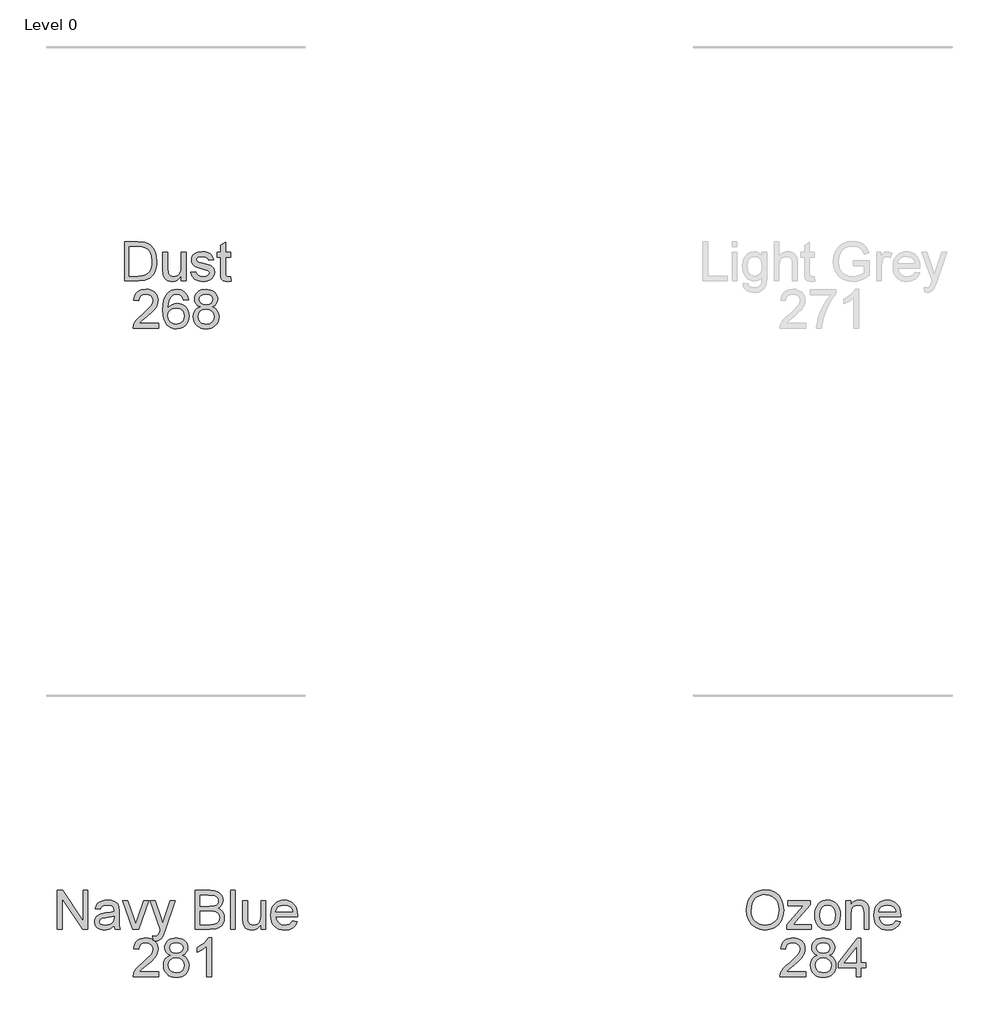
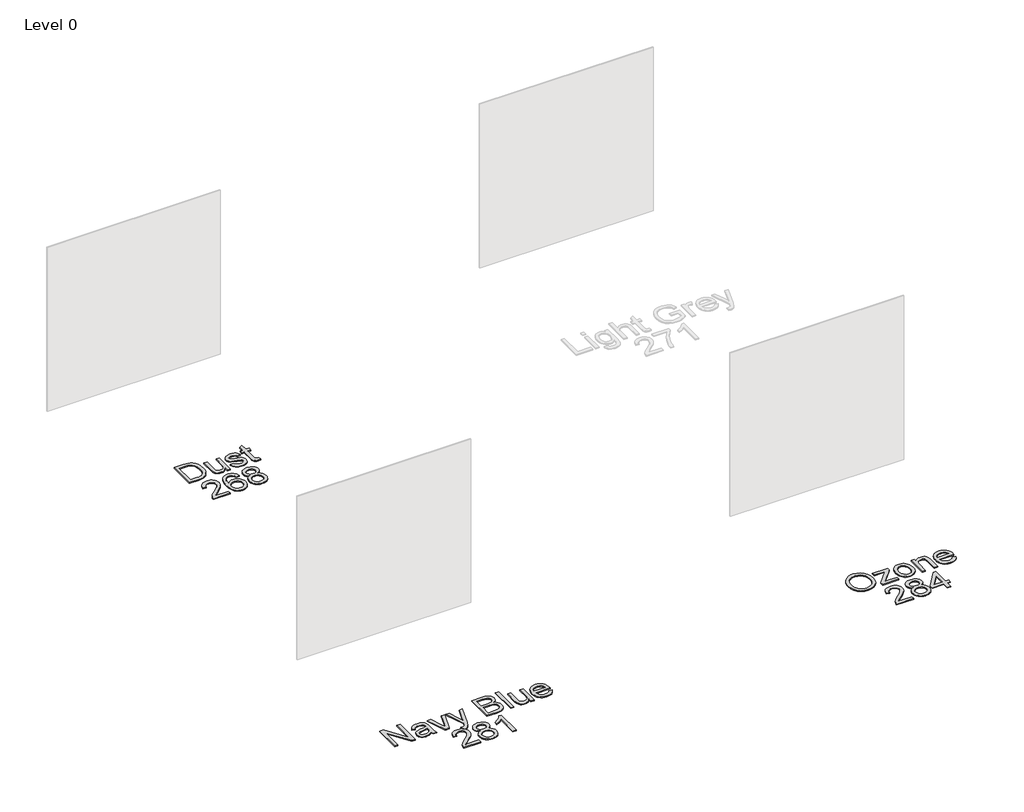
# One storey, part 8 of 15: 3 proxies.
"""IFC4 building model written with IfcOpenShell, lengths in millimetres."""

from ifc_helpers import new_model, si_unit, origin, origin_with_axes, place, context, project, spatial, polyline, outline, extrude, element, save

model = new_model("IFC4")

# Units and contexts
model_context = context("Model", 3, world=origin())
ifc_project = project(units=[si_unit("LENGTHUNIT", "METRE", prefix="MILLI")], contexts=[model_context])

# Site, building, storey
site = spatial("IfcSite", under=ifc_project)
building = spatial("IfcBuilding", under=site)
storey = spatial("IfcBuildingStorey", under=building, Name="Level 0", Elevation=0.0)

# Proxies
placement = place(None, origin())
element("IfcBuildingElementProxy", 1, Name="300mm Arial", ObjectType="300mm Arial", at=placement, inside=storey, context=model_context, shape_type="SweptSolid", body=[
    extrude(outline(polyline([(151.4407777, -32011.9454346), (151.4407777, -31710.5765041), (255.4042295, -31710.5765041), (309.1885772, -31714.9175116), (333.2112715, -31723.286827), (353.4815695, -31736.4753966), (374.3220845, -31759.4312331), (389.166123, -31787.9788759), (398.0504732, -31821.566502), (401.0119232, -31859.6422885), (399.0069664, -31891.988313), (392.9920957, -31920.4531824), (383.8318341, -31944.6874088), (372.390704, -31964.3415044), (359.2205286, -31979.8569275), (344.8731308, -31991.6751366), (328.4012144, -32000.4399252), (308.8574834, -32006.7950866), (260.4074247, -32011.9454346), (151.4407777, -32011.9454346)]), holes=[polyline([(189.111894, -31974.2743182), (255.7721115, -31974.2743182), (283.3448671, -31972.9131549), (304.2589585, -31968.8296647), (320.0410961, -31962.2629711), (332.2179901, -31953.4521973), (345.3053921, -31937.1458279), (355.1370384, -31916.0385984), (361.2898648, -31890.0385384), (363.3408069, -31859.0536774), (359.3216961, -31817.9980467), (347.2643637, -31787.6845703), (329.4496781, -31766.8624494), (308.1585077, -31754.2808851), (286.4902581, -31749.7559366), (254.742042, -31748.2476204), (189.111894, -31748.2476204), (189.111894, -31974.2743182)])]), origin_with_axes(), (0.0, 0.0, 1.0), 10.0),
    extrude(outline(polyline([(589.3675048, -32011.9454346), (589.3675048, -31973.9064362), (575.7374768, -31992.6086372), (559.8633688, -32005.9673521), (541.7451805, -32013.9825811), (521.3829121, -32016.6543241), (503.0347975, -32014.7781259), (485.9558759, -32009.1495314), (471.6268722, -32000.6882455), (461.5285114, -31990.3139732), (450.3081106, -31962.5756708), (448.1008186, -31927.5533049), (448.1008186, -31790.6276263), (485.7719349, -31790.6276263), (485.7719349, -31909.8213927), (488.0528033, -31948.228273), (493.5434421, -31961.0397635), (502.9520241, -31970.7794393), (515.65315, -31976.9322657), (531.0214203, -31978.9832078), (547.2726075, -31976.8862804), (562.4753309, -31970.5954983), (575.0109099, -31960.6902756), (583.2606636, -31947.7500264), (587.8407945, -31930.0273113), (589.3675048, -31905.7746907), (589.3675048, -31790.6276263), (627.0386211, -31790.6276263), (627.0386211, -32011.9454346), (589.3675048, -32011.9454346)])), origin_with_axes(), (0.0, 0.0, 1.0), 10.0),
    extrude(outline(polyline([(664.7097374, -31946.020981), (702.3808537, -31941.3120915), (708.3221479, -31957.4253229), (719.8184603, -31969.2711231), (736.9433671, -31976.5551866), (759.7704449, -31978.9832078), (782.3216112, -31976.7575217), (798.1773252, -31970.0804635), (807.5583161, -31960.405167), (810.6853131, -31949.1847662), (807.539922, -31939.5830461), (798.1037488, -31932.2621944), (759.3289865, -31921.5200401), (702.6015829, -31903.0891522), (688.244988, -31893.8277229), (677.8431246, -31881.5680555), (671.5247513, -31867.091899), (669.4186269, -31851.1810027), (671.1108841, -31836.5852845), (676.1876556, -31823.1116064), (684.189089, -31811.2933973), (694.6553318, -31801.6640861), (718.6044497, -31790.5172617), (751.0148534, -31785.9187367), (775.5341884, -31787.7673437), (796.85295, -31793.3131648), (813.996251, -31802.013574), (825.9892041, -31813.3259454), (833.9354552, -31828.0872104), (838.9386503, -31847.1343007), (801.267534, -31851.8431903), (796.5126592, -31839.988193), (787.1040772, -31831.0578575), (772.9498174, -31825.4568541), (753.9579094, -31823.589853), (732.3264481, -31825.3740807), (717.9054739, -31830.7267637), (709.7936759, -31838.4522856), (707.0897432, -31847.3550299), (711.5779036, -31858.3179134), (725.6309958, -31866.6320465), (758.0781878, -31874.651874), (813.3708516, -31892.3837861), (827.9757668, -31900.8634661), (839.0490149, -31912.4701431), (846.0295758, -31927.2406052), (848.3564294, -31945.2116406), (845.6249056, -31963.7896814), (837.4303341, -31981.2640762), (824.0854147, -31996.2644645), (805.9028471, -32007.420486), (783.940292, -32014.3458646), (759.2554101, -32016.6543241), (721.2715941, -32012.2029519), (693.5516858, -31998.8488355), (675.0472214, -31976.7391276), (664.7097374, -31946.020981)])), origin_with_axes(), (0.0, 0.0, 1.0), 10.0),
    extrude(outline(polyline([(970.7875574, -31980.5283122), (975.4964469, -32013.0490805), (947.3166861, -32016.6543241), (929.235286, -32015.0908256), (915.7524109, -32010.4003302), (906.2242672, -32003.171449), (900.0070615, -31993.9927932), (896.5857589, -31978.2290497), (895.4453248, -31951.2449053), (895.4453248, -31828.2987426), (867.1919875, -31828.2987426), (867.1919875, -31790.6276263), (895.4453248, -31790.6276263), (895.4453248, -31736.8432786), (933.1164411, -31714.6967824), (933.1164411, -31790.6276263), (970.7875574, -31790.6276263), (970.7875574, -31828.2987426), (933.1164411, -31828.2987426), (933.1164411, -31950.1412594), (935.1030038, -31969.5654287), (941.5409388, -31976.444822), (954.3800204, -31978.9832078), (970.7875574, -31980.5283122)])), origin_with_axes(), (0.0, 0.0, 1.0), 10.0),
    extrude(outline(polyline([(415.1385919, -32340.1987718), (415.1385919, -32377.8698881), (217.3652312, -32377.8698881), (221.4119332, -32351.8974192), (230.7009536, -32331.5995301), (244.2941933, -32311.9086464), (263.9574859, -32291.2980576), (291.4566651, -32268.2410535), (332.1076255, -32232.1334357), (356.4982018, -32205.4803851), (368.69349, -32183.8489238), (372.758586, -32162.8060737), (368.9234162, -32143.9429244), (357.4179068, -32128.2619544), (339.7319799, -32117.694544), (317.3555575, -32114.1720739), (293.8570951, -32117.6117706), (275.6009511, -32127.9308606), (263.8195302, -32144.3200034), (259.7452371, -32165.9698589), (222.0741208, -32161.2609693), (231.2067913, -32124.8222577), (239.7531499, -32110.2863204), (250.9528574, -32098.2059954), (264.5483964, -32088.7100414), (280.2822495, -32081.9272171), (318.1648979, -32076.5009576), (338.3547217, -32078.0092738), (356.3234579, -32082.5342224), (372.0711065, -32090.0758033), (385.5976676, -32100.6340165), (396.4616828, -32113.4271129), (404.2216936, -32127.6733432), (408.8777001, -32143.3727073), (410.4297023, -32160.5252053), (408.7558392, -32178.5422261), (403.73425, -32196.2465471), (394.8223087, -32214.2543707), (381.4773893, -32233.1818994), (360.2046129, -32255.7790509), (327.5091006, -32284.7957433), (284.1726016, -32321.0321198), (267.1764534, -32340.1987718), (415.1385919, -32340.1987718)])), origin_with_axes(), (0.0, 0.0, 1.0), 10.0),
    extrude(outline(polyline([(645.8741792, -32156.5520798), (608.2030629, -32161.2609693), (602.13301, -32142.5909581), (593.9292415, -32129.8438469), (576.8411228, -32118.0900172), (556.1845488, -32114.1720739), (538.6733658, -32116.4529423), (522.1922524, -32123.2955474), (508.0379927, -32137.7073246), (496.477301, -32157.5453612), (488.6690056, -32185.6055604), (485.7719349, -32224.6838253), (500.8826879, -32207.0530807), (518.9916791, -32194.6278663), (539.0872331, -32187.2610293), (560.1576744, -32184.805417), (578.2574685, -32186.4838786), (594.9593111, -32191.5192634), (610.2632021, -32199.9115714), (624.1691415, -32211.6608027), (635.7252347, -32226.0679813), (643.979587, -32242.4341316), (648.9321983, -32260.7592534), (650.5830688, -32281.043347), (647.4744659, -32308.0182943), (638.1486573, -32333.0250729), (623.3781952, -32354.2334699), (603.9356318, -32369.8132724), (580.7038838, -32379.3874013), (554.565868, -32382.5787776), (532.1089715, -32380.4634562), (511.8271772, -32374.1174917), (493.7204853, -32363.5408844), (477.7888956, -32348.7336341), (464.8003619, -32329.0703414), (455.5228379, -32303.9256071), (449.9563234, -32273.299431), (448.1008186, -32237.1918131), (450.1609578, -32196.7109981), (456.3413753, -32162.1622802), (466.6420712, -32133.5456595), (481.0630454, -32110.861136), (496.6934317, -32095.828558), (514.8162184, -32085.0910022), (535.4314058, -32078.6484688), (558.5389936, -32076.5009576), (591.5931908, -32081.8168525), (618.0623004, -32097.764537), (636.6035529, -32123.0932123), (645.8741792, -32156.5520798)]), holes=[polyline([(485.7719349, -32280.4547358), (487.9516357, -32297.1473813), (494.4907382, -32313.0858687), (504.6442813, -32326.7894731), (517.6673039, -32336.7774692), (533.3850622, -32342.8751133), (551.6228121, -32344.9076613), (576.4824379, -32340.6954125), (596.0261689, -32328.0586659), (608.6905066, -32308.1930382), (612.9119525, -32282.2941457), (608.7456889, -32257.4345199), (596.2468981, -32238.4794001), (576.3720733, -32226.47725), (550.0777077, -32222.4765333), (525.2548701, -32226.47725), (504.4971285, -32238.4794001), (490.4532333, -32256.9746674), (485.7719349, -32280.4547358)])]), origin_with_axes(), (0.0, 0.0, 1.0), 10.0),
    extrude(outline(polyline([(738.4332892, -32211.8815319), (718.2641588, -32201.948718), (704.1098991, -32188.484237), (695.7497807, -32171.7640003), (692.9630746, -32152.0639194), (694.4805878, -32136.7002476), (699.0331275, -32122.6149657), (706.6206937, -32109.8080738), (717.2432863, -32098.2795718), (730.3904691, -32088.7514281), (745.5518058, -32081.9456112), (781.916941, -32076.5009576), (818.5028055, -32082.0743699), (833.8296891, -32089.0411351), (847.179207, -32098.7946065), (857.9949376, -32110.5484363), (865.7204595, -32123.5162766), (870.3557727, -32137.6981275), (871.9008771, -32153.093989), (869.1509591, -32172.1594734), (860.9012054, -32188.5946016), (847.0596453, -32201.9763091), (827.5343084, -32211.8815319), (850.7200712, -32223.8284997), (867.5966577, -32241.4224561), (877.8881565, -32263.8172725), (881.3186561, -32290.1668204), (879.6172019, -32308.9563933), (874.5128392, -32326.1824678), (866.0055681, -32341.8450437), (854.0953885, -32355.9441212), (839.4076998, -32367.5967834), (822.5679015, -32375.9201135), (803.5759935, -32380.9141116), (782.4319758, -32382.5787776), (761.2879582, -32380.9072138), (742.2960502, -32375.8925224), (725.4562518, -32367.5347033), (710.7685632, -32355.8337566), (698.8583836, -32341.6358108), (690.3511124, -32325.7869946), (685.2467498, -32308.287308), (683.5452955, -32289.1367509), (687.1137509, -32261.7663304), (697.8191169, -32239.2519523), (715.1095707, -32222.3661687), (738.4332892, -32211.8815319)]), holes=[polyline([(730.6341909, -32153.1675654), (733.97272, -32169.6118906), (743.9883073, -32182.7452778), (760.3866473, -32191.3537165), (782.8734342, -32194.2231961), (804.8359893, -32191.3721106), (820.9860089, -32182.8188542), (830.9188228, -32170.1269254), (834.2297608, -32154.8598226), (830.8084582, -32139.0133057), (820.5445505, -32125.9075096), (804.1738018, -32117.1059329), (782.4319758, -32114.1720739), (760.5521942, -32117.0415535), (744.2090365, -32125.6499922), (734.0279023, -32138.2683446), (730.6341909, -32153.1675654)]), polyline([(721.2164118, -32287.8123757), (727.507194, -32316.1760775), (736.2168002, -32328.3437745), (749.7640547, -32337.4028686), (765.9876507, -32343.0314631), (782.7262814, -32344.9076613), (808.3676565, -32340.9621269), (827.6078848, -32329.1255237), (839.6376261, -32311.2004735), (843.6475398, -32288.9895981), (839.5088674, -32266.4016435), (827.0928501, -32248.0811202), (807.4111633, -32235.9410143), (781.4754826, -32231.8943124), (756.1927925, -32235.885832), (737.1457022, -32247.860391), (725.1987344, -32265.8314265), (721.2164118, -32287.8123757)])]), origin_with_axes(), (0.0, 0.0, 1.0), 10.0),
])
element("IfcBuildingElementProxy", 2, Name="300mm Arial", ObjectType="300mm Arial", at=placement, inside=storey, context=model_context, shape_type="SweptSolid", body=[
    extrude(outline(polyline([(-366.5370715, -37021.0303751), (-366.5370715, -36719.6614447), (-326.2172048, -36719.6614447), (-168.7637109, -36958.4168595), (-168.7637109, -36719.6614447), (-131.0925946, -36719.6614447), (-131.0925946, -37021.0303751), (-171.4124613, -37021.0303751), (-328.8659552, -36782.2013839), (-328.8659552, -37021.0303751), (-366.5370715, -37021.0303751)])), origin_with_axes(), (0.0, 0.0, 1.0), 10.0),
    extrude(outline(polyline([(71.3896556, -36992.7770379), (53.3910289, -37008.2096876), (34.8589734, -37018.3080484), (15.3704247, -37023.8814606), (-5.4976814, -37025.7392647), (-36.9791832, -37021.2694984), (-60.2017341, -37007.8601997), (-74.5215408, -36987.4979313), (-79.2948097, -36962.1692559), (-77.4921879, -36946.5526652), (-72.0843226, -36932.3708143), (-63.7425983, -36920.2307084), (-53.1383998, -36910.739353), (-26.7612608, -36898.3785179), (5.833084, -36892.7131352), (44.3503289, -36886.7534469), (71.1689264, -36879.763689), (71.3896556, -36871.3759795), (68.7960875, -36854.5637723), (61.0153833, -36843.5641006), (43.6145649, -36835.3971204), (19.3711414, -36832.6747936), (-3.0696603, -36834.4866124), (-18.7414333, -36839.9220689), (-29.4284052, -36849.9744444), (-36.9148038, -36865.6370204), (-74.5859201, -36860.9281308), (-68.0468177, -36840.3267391), (-58.2887477, -36824.1399313), (-44.4012024, -36811.7607022), (-25.4736738, -36802.5820464), (-2.3246992, -36796.8982696), (24.2271838, -36795.0036773), (49.6938149, -36796.6775404), (69.8813394, -36801.6991296), (85.1024569, -36809.2499075), (95.6698672, -36818.5113368), (102.6780192, -36829.9616639), (107.2213619, -36844.0791354), (109.0607719, -36877.0413622), (109.0607719, -36923.9095284), (110.9737582, -36989.3557353), (118.4785509, -37021.0303751), (80.8074346, -37021.0303751), (71.3896556, -36992.7770379)]), holes=[polyline([(71.3896556, -36917.4348053), (10.61555, -36928.9862999), (-21.7948538, -36935.093141), (-36.4733454, -36945.0259549), (-41.6236934, -36959.5205055), (-38.8185931, -36970.7225123), (-30.4032925, -36979.9011681), (-16.5617324, -36986.0264033), (2.5221461, -36988.0681484), (22.7556558, -36985.8148711), (40.6347208, -36979.0550395), (55.1292714, -36969.0946345), (65.209238, -36957.2396372), (69.6790043, -36945.0259549), (71.1689264, -36928.1033831), (71.3896556, -36917.4348053)])]), origin_with_axes(), (0.0, 0.0, 1.0), 10.0),
    extrude(outline(polyline([(215.1579393, -37021.0303751), (137.3141091, -36799.7125668), (177.1925174, -36799.7125668), (224.3549892, -36932.2972379), (238.5552342, -36976.8845357), (252.4611736, -36934.7988355), (299.917951, -36799.7125668), (339.7963592, -36799.7125668), (262.9090222, -37021.0303751), (215.1579393, -37021.0303751)])), origin_with_axes(), (0.0, 0.0, 1.0), 10.0),
    extrude(outline(polyline([(372.758586, -37105.7903868), (368.0496965, -37069.5172221), (387.1795602, -37072.82816), (405.0586252, -37068.6710935), (416.0215086, -37057.0828106), (426.3222045, -37029.3445082), (429.2652605, -37020.2210347), (349.2141383, -36799.7125668), (388.9453938, -36799.7125668), (431.398976, -36922.5851532), (446.1878322, -36971.7341878), (460.9766885, -36928.3241123), (504.6074931, -36799.7125668), (544.044443, -36799.7125668), (467.0099532, -37026.3278759), (446.9971726, -37075.4769104), (436.7516591, -37091.1670775), (425.1449821, -37102.0379905), (411.662107, -37108.3839549), (395.7879989, -37110.4992763), (372.758586, -37105.7903868)])), origin_with_axes(), (0.0, 0.0, 1.0), 10.0),
    extrude(outline(polyline([(697.6719641, -37021.0303751), (697.6719641, -36719.6614447), (812.6718758, -36719.6614447), (844.3005304, -36721.8779337), (868.9946093, -36728.5274008), (887.922138, -36739.7753928), (902.2511417, -36755.7874566), (911.2734476, -36774.6230148), (914.2808829, -36794.3414897), (911.7516942, -36812.4872691), (904.164128, -36829.5477966), (891.4630022, -36844.4746086), (873.5931342, -36856.2192413), (894.939487, -36867.3660657), (910.7124276, -36884.3254257), (920.4521034, -36905.9752811), (923.698662, -36931.1935919), (921.482173, -36952.2088509), (914.8327059, -36971.6973996), (904.9090891, -36988.2704835), (892.8701508, -37000.539348), (878.1272798, -37009.4236982), (860.091865, -37015.843239), (811.7889591, -37021.0303751), (697.6719641, -37021.0303751)]), holes=[polyline([(735.3430805, -36842.0925727), (804.1370136, -36842.0925727), (844.3097274, -36838.8552111), (858.3720167, -36833.2726018), (868.4795745, -36824.9124835), (874.5772186, -36813.9036148), (876.6097666, -36800.3747544), (874.7151743, -36787.2413672), (869.0313975, -36775.8002371), (859.8159535, -36766.8699017), (847.3263598, -36761.2688983), (798.9130892, -36757.332561), (735.3430805, -36757.332561), (735.3430805, -36842.0925727)]), polyline([(735.3430805, -36983.3592588), (812.5982994, -36983.3592588), (840.5573311, -36981.8877308), (864.2121434, -36973.6839623), (879.8839164, -36956.9453316), (884.4916383, -36945.1179254), (886.0275457, -36931.5614739), (884.2249239, -36915.8161245), (878.8170586, -36902.2780671), (869.3716883, -36891.6922627), (855.4565519, -36884.8036723), (835.747274, -36881.0236848), (808.9194795, -36879.763689), (735.3430805, -36879.763689), (735.3430805, -36983.3592588)])]), origin_with_axes(), (0.0, 0.0, 1.0), 10.0),
    extrude(outline(polyline([(970.7875574, -37021.0303751), (970.7875574, -36719.6614447), (1008.4586737, -36719.6614447), (1008.4586737, -37021.0303751), (970.7875574, -37021.0303751)])), origin_with_axes(), (0.0, 0.0, 1.0), 10.0),
    extrude(outline(polyline([(1206.2320343, -37021.0303751), (1206.2320343, -36982.9913768), (1192.6020064, -37001.6935777), (1176.7278983, -37015.0522927), (1158.60971, -37023.0675217), (1138.2474416, -37025.7392647), (1119.8993271, -37023.8630665), (1102.8204054, -37018.234472), (1088.4914017, -37009.7731861), (1078.393041, -36999.3989138), (1067.1726401, -36971.6606114), (1064.9653481, -36936.6382454), (1064.9653481, -36799.7125668), (1102.6364644, -36799.7125668), (1102.6364644, -36918.9063333), (1104.9173328, -36957.3132136), (1110.4079716, -36970.124704), (1119.8165536, -36979.8643799), (1132.5176795, -36986.0172062), (1147.8859498, -36988.0681484), (1164.137137, -36985.971221), (1179.3398604, -36979.6804389), (1191.8754394, -36969.7752161), (1200.1251932, -36956.834967), (1204.705324, -36939.1122518), (1206.2320343, -36914.8596313), (1206.2320343, -36799.7125668), (1243.9031506, -36799.7125668), (1243.9031506, -37021.0303751), (1206.2320343, -37021.0303751)])), origin_with_axes(), (0.0, 0.0, 1.0), 10.0),
    extrude(outline(polyline([(1450.6528319, -36955.1059216), (1487.5881842, -36959.8148111), (1474.280053, -36987.6450841), (1453.0440648, -37008.4488109), (1424.3584663, -37021.4166512), (1388.7015039, -37025.7392647), (1365.3272016, -37023.8745628), (1344.5004822, -37018.2804572), (1326.2213455, -37008.9569479), (1310.4897917, -36995.9040349), (1297.8392496, -36979.4850016), (1288.8031481, -36960.0631315), (1283.3814872, -36937.6384246), (1281.5742669, -36912.2108809), (1283.3998813, -36885.9211139), (1288.8767245, -36862.7491467), (1298.0047965, -36842.6949794), (1310.7840973, -36825.7586121), (1326.4742644, -36812.3033281), (1344.3349353, -36802.692411), (1364.3661099, -36796.9258607), (1386.5677883, -36795.0036773), (1408.0543961, -36796.9212622), (1427.4854632, -36802.6740169), (1444.8609897, -36812.2619414), (1460.1809756, -36825.6850357), (1472.6866641, -36842.5846148), (1481.6192988, -36862.6019939), (1486.9788796, -36885.7371729), (1488.7654066, -36911.9901518), (1488.5446774, -36922.1436948), (1319.2453832, -36922.1436948), (1325.7660916, -36950.3418497), (1340.9136327, -36971.0720002), (1362.7750203, -36983.8191113), (1389.4372679, -36988.0681484), (1409.4868366, -36986.0999797), (1426.3726202, -36980.1954737), (1440.0946186, -36969.9867483), (1450.6528319, -36955.1059216)]), holes=[polyline([(1319.2453832, -36884.4725785), (1451.0942903, -36884.4725785), (1445.9991246, -36864.5701626), (1436.0111285, -36850.3331294), (1414.0485734, -36837.0893775), (1386.4206355, -36832.6747936), (1361.0275808, -36836.1972637), (1340.0307159, -36846.764674), (1325.4349978, -36863.2365903), (1319.2453832, -36884.4725785)])]), origin_with_axes(), (0.0, 0.0, 1.0), 10.0),
    extrude(outline(polyline([(415.1385919, -37349.2837124), (415.1385919, -37386.9548287), (217.3652312, -37386.9548287), (221.4119332, -37360.9823598), (230.7009536, -37340.6844707), (244.2941933, -37320.9935869), (263.9574859, -37300.3829981), (291.4566651, -37277.3259941), (332.1076255, -37241.2183763), (356.4982018, -37214.5653257), (368.69349, -37192.9338644), (372.758586, -37171.8910143), (368.9234162, -37153.027865), (357.4179068, -37137.3468949), (339.7319799, -37126.7794846), (317.3555575, -37123.2570145), (293.8570951, -37126.6967112), (275.6009511, -37137.0158011), (263.8195302, -37153.404944), (259.7452371, -37175.0547994), (222.0741208, -37170.3459099), (231.2067913, -37133.9071983), (239.7531499, -37119.3712609), (250.9528574, -37107.2909359), (264.5483964, -37097.7949819), (280.2822495, -37091.0121576), (318.1648979, -37085.5858982), (338.3547217, -37087.0942144), (356.3234579, -37091.6191629), (372.0711065, -37099.1607438), (385.5976676, -37109.7189571), (396.4616828, -37122.5120535), (404.2216936, -37136.7582837), (408.8777001, -37152.4576479), (410.4297023, -37169.6101459), (408.7558392, -37187.6271666), (403.73425, -37205.3314876), (394.8223087, -37223.3393113), (381.4773893, -37242.26684), (360.2046129, -37264.8639915), (327.5091006, -37293.8806839), (284.1726016, -37330.1170604), (267.1764534, -37349.2837124), (415.1385919, -37349.2837124)])), origin_with_axes(), (0.0, 0.0, 1.0), 10.0),
    extrude(outline(polyline([(507.6977018, -37220.9664724), (487.5285715, -37211.0336586), (473.3743117, -37197.5691775), (465.0141933, -37180.8489409), (462.2274872, -37161.14886), (463.7450005, -37145.7851882), (468.2975402, -37131.6999063), (475.8851063, -37118.8930143), (486.5076989, -37107.3645123), (499.6548817, -37097.8363686), (514.8162184, -37091.0305517), (551.1813537, -37085.5858982), (587.7672181, -37091.1593104), (603.0941017, -37098.1260757), (616.4436196, -37107.8795471), (627.2593503, -37119.6333769), (634.9848722, -37132.6012172), (639.6201853, -37146.7830681), (641.1652897, -37162.1789296), (638.4153718, -37181.244414), (630.165618, -37197.6795421), (616.324058, -37211.0612497), (596.7987211, -37220.9664724), (619.9844838, -37232.9134402), (636.8610703, -37250.5073966), (647.1525692, -37272.9022131), (650.5830688, -37299.251761), (648.8816145, -37318.0413339), (643.7772519, -37335.2674083), (635.2699807, -37350.9299843), (623.3598011, -37365.0290617), (608.6721125, -37376.6817239), (591.8323141, -37385.0050541), (572.8404061, -37389.9990522), (551.6963885, -37391.6637182), (530.5523708, -37389.9921544), (511.5604628, -37384.9774629), (494.7206645, -37376.6196439), (480.0329758, -37364.9186971), (468.1227962, -37350.7207514), (459.6155251, -37334.8719352), (454.5111624, -37317.3722485), (452.8097082, -37298.2216914), (456.3781635, -37270.851271), (467.0835296, -37248.3368929), (484.3739833, -37231.4511093), (507.6977018, -37220.9664724)]), holes=[polyline([(499.8986035, -37162.252506), (503.2371326, -37178.6968312), (513.25272, -37191.8302184), (529.6510599, -37200.4386571), (552.1378469, -37203.3081367), (574.100402, -37200.4570512), (590.2504216, -37191.9037948), (600.1832354, -37179.211866), (603.4941734, -37163.9447632), (600.0728708, -37148.0982462), (589.8089632, -37134.9924502), (573.4382144, -37126.1908734), (551.6963885, -37123.2570145), (529.8166068, -37126.1264941), (513.4734492, -37134.7349328), (503.2923149, -37147.3532852), (499.8986035, -37162.252506)]), polyline([(490.4808245, -37296.8973162), (496.7716066, -37325.2610181), (505.4812128, -37337.4287151), (519.0284673, -37346.4878092), (535.2520633, -37352.1164037), (551.9906941, -37353.9926019), (577.6320691, -37350.0470675), (596.8722975, -37338.2104643), (608.9020387, -37320.2854141), (612.9119525, -37298.0745386), (608.77328, -37275.4865841), (596.3572627, -37257.1660608), (576.6755759, -37245.0259549), (550.7398953, -37240.979253), (525.4572052, -37244.9707726), (506.4101149, -37256.9453316), (494.4631471, -37274.916367), (490.4808245, -37296.8973162)])]), origin_with_axes(), (0.0, 0.0, 1.0), 10.0),
    extrude(outline(polyline([(824.8119817, -37386.9548287), (787.1408654, -37386.9548287), (787.1408654, -37152.0989629), (751.4563118, -37177.5196088), (711.7986328, -37196.539108), (711.7986328, -37160.9281308), (741.3855422, -37144.8332935), (767.0177202, -37125.6850357), (787.2236388, -37105.3227672), (800.53177, -37085.5858982), (824.8119817, -37085.5858982), (824.8119817, -37386.9548287)])), origin_with_axes(), (0.0, 0.0, 1.0), 10.0),
])
element("IfcBuildingElementProxy", 3, Name="300mm Arial", ObjectType="300mm Arial", at=placement, inside=storey, context=model_context, shape_type="SweptSolid", body=[
    extrude(outline(polyline([(4958.3763066, -36874.3190354), (4960.8871013, -36838.9701742), (4968.4194851, -36807.677212), (4980.9734582, -36780.4401488), (4998.5490205, -36757.2589846), (5020.0931099, -36738.7499217), (5044.552664, -36725.5291625), (5071.927683, -36717.596707), (5102.2181668, -36714.9525551), (5141.7470871, -36719.9189621), (5177.1925174, -36734.8181829), (5206.623077, -36758.6017539), (5228.1073855, -36790.2212113), (5241.2407727, -36828.149845), (5245.6185685, -36870.8609447), (5241.0108465, -36914.1422614), (5227.1876805, -36952.604324), (5204.9124257, -36984.2789638), (5174.9484372, -37007.1980121), (5139.8065096, -37021.1039515), (5101.9974376, -37025.7392647), (5061.8615119, -37020.6165079), (5026.2137466, -37005.2482375), (4996.8567633, -36981.0232081), (4975.593184, -36949.3301743), (4962.680526, -36912.8638715), (4958.3763066, -36874.3190354)]), holes=[polyline([(4996.0474229, -36874.6869174), (4997.9305189, -36899.6615064), (5003.5798068, -36921.8309951), (5012.9952866, -36941.1953836), (5026.1769584, -36957.754672), (5042.2005185, -36971.0168179), (5060.1416636, -36980.4897793), (5080.0003935, -36986.1735561), (5101.7767084, -36988.0681484), (5123.9255037, -36986.155162), (5144.0187585, -36980.4162029), (5162.0564725, -36970.851271), (5178.038646, -36957.4603664), (5191.1237487, -36940.5515902), (5200.4702506, -36920.4330435), (5206.0781518, -36897.1047265), (5207.9474522, -36870.5666391), (5204.7468788, -36837.2181362), (5195.1451587, -36808.3945819), (5179.3906123, -36784.8225431), (5157.7315598, -36767.2285866), (5131.6027411, -36756.2749002), (5102.438896, -36752.6236714), (5081.4190385, -36754.3826072), (5061.9166942, -36759.6594146), (5043.9318631, -36768.4540935), (5027.4645453, -36780.7666441), (5013.7195543, -36797.1902759), (5003.9017035, -36818.3181987), (4998.0109931, -36844.1504126), (4996.0474229, -36874.6869174)])]), origin_with_axes(), (0.0, 0.0, 1.0), 10.0),
    extrude(outline(polyline([(5269.1630162, -37021.0303751), (5269.1630162, -36985.5665508), (5399.1725133, -36837.3836831), (5360.6920566, -36837.3836831), (5278.5807952, -36837.3836831), (5278.5807952, -36799.7125668), (5452.8097082, -36799.7125668), (5452.8097082, -36831.7183004), (5337.5154909, -36963.1993255), (5319.8571551, -36983.3592588), (5363.4143833, -36983.3592588), (5457.5185977, -36983.3592588), (5457.5185977, -37021.0303751), (5269.1630162, -37021.0303751)])), origin_with_axes(), (0.0, 0.0, 1.0), 10.0),
    extrude(outline(polyline([(5485.7719349, -36910.371471), (5487.8090815, -36881.708865), (5493.9205211, -36857.0101876), (5504.1062539, -36836.2754386), (5518.3662797, -36819.5046182), (5532.7228746, -36808.7854565), (5548.5693915, -36801.1289125), (5565.9058305, -36796.5349861), (5584.7321916, -36795.0036773), (5605.5152251, -36796.8683791), (5624.3070973, -36802.4624847), (5641.1078081, -36811.7859941), (5655.9173577, -36824.8389071), (5668.0045805, -36841.1797655), (5676.6383111, -36860.3671108), (5681.8185494, -36882.400943), (5683.5452955, -36907.2812622), (5680.491875, -36945.3386546), (5671.3316133, -36974.3093617), (5656.3312249, -36996.0052024), (5635.7574244, -37012.2379954), (5611.3208628, -37022.3639474), (5584.7321916, -37025.7392647), (5563.6456555, -37023.8814606), (5544.6790394, -37018.3080484), (5527.8323433, -37009.019028), (5513.1055672, -36996.0143994), (5501.1471031, -36979.514892), (5492.605343, -36959.7412347), (5487.4802869, -36936.6934277), (5485.7719349, -36910.371471)]), holes=[polyline([(5523.4430512, -36910.2978946), (5527.8024529, -36944.3913585), (5540.8806578, -36968.6807672), (5560.5623445, -36983.2213031), (5584.7321916, -36988.0681484), (5608.7916741, -36983.1937119), (5628.4365727, -36968.5704026), (5641.5147776, -36943.9590971), (5645.8741792, -36909.1206722), (5641.4871864, -36876.0204897), (5628.3262081, -36852.0621747), (5608.6537184, -36837.5216389), (5584.7321916, -36832.6747936), (5560.5623445, -36837.5032448), (5540.8806578, -36851.9885983), (5527.8024529, -36876.2228248), (5523.4430512, -36910.2978946)])]), origin_with_axes(), (0.0, 0.0, 1.0), 10.0),
    extrude(outline(polyline([(5725.9253014, -37021.0303751), (5725.9253014, -36799.7125668), (5763.5964177, -36799.7125668), (5763.5964177, -36830.6146544), (5776.6838197, -36815.0348519), (5792.4015779, -36803.9064216), (5810.7496924, -36797.2293634), (5831.7281632, -36795.0036773), (5850.2970069, -36796.797102), (5867.3023521, -36802.1773762), (5881.484203, -36810.4731152), (5891.5825638, -36821.0129343), (5902.8765411, -36848.7144486), (5904.8631038, -36885.1347661), (5904.8631038, -37021.0303751), (5867.1919875, -37021.0303751), (5867.1919875, -36890.2115376), (5862.85098, -36856.8814289), (5856.8453064, -36846.9578121), (5847.5103008, -36839.2598813), (5835.5449389, -36834.3210655), (5821.6481965, -36832.6747936), (5799.5844739, -36836.3720076), (5780.7765069, -36847.4636498), (5773.2602178, -36856.5181454), (5767.89144, -36868.892776), (5763.5964177, -36903.6024423), (5763.5964177, -37021.0303751), (5725.9253014, -37021.0303751)])), origin_with_axes(), (0.0, 0.0, 1.0), 10.0),
    extrude(outline(polyline([(6111.6127851, -36955.1059216), (6148.5481374, -36959.8148111), (6135.2400063, -36987.6450841), (6114.0040181, -37008.4488109), (6085.3184195, -37021.4166512), (6049.6614571, -37025.7392647), (6026.2871549, -37023.8745628), (6005.4604354, -37018.2804572), (5987.1812988, -37008.9569479), (5971.449745, -36995.9040349), (5958.7992028, -36979.4850016), (5949.7631013, -36960.0631315), (5944.3414404, -36937.6384246), (5942.5342201, -36912.2108809), (5944.3598345, -36885.9211139), (5949.8366777, -36862.7491467), (5958.9647497, -36842.6949794), (5971.7440506, -36825.7586121), (5987.4342176, -36812.3033281), (6005.2948885, -36802.692411), (6025.3260632, -36796.9258607), (6047.5277416, -36795.0036773), (6069.0143493, -36796.9212622), (6088.4454165, -36802.6740169), (6105.820943, -36812.2619414), (6121.1409288, -36825.6850357), (6133.6466174, -36842.5846148), (6142.5792521, -36862.6019939), (6147.9388329, -36885.7371729), (6149.7253598, -36911.9901518), (6149.5046306, -36922.1436948), (5980.2053364, -36922.1436948), (5986.7260448, -36950.3418497), (6001.873586, -36971.0720002), (6023.7349735, -36983.8191113), (6050.3972211, -36988.0681484), (6070.4467899, -36986.0999797), (6087.3325734, -36980.1954737), (6101.0545719, -36969.9867483), (6111.6127851, -36955.1059216)]), holes=[polyline([(5980.2053364, -36884.4725785), (6112.0542435, -36884.4725785), (6106.9590779, -36864.5701626), (6096.9710817, -36850.3331294), (6075.0085266, -36837.0893775), (6047.3805888, -36832.6747936), (6021.987534, -36836.1972637), (6000.9906692, -36846.764674), (5986.394951, -36863.2365903), (5980.2053364, -36884.4725785)])]), origin_with_axes(), (0.0, 0.0, 1.0), 10.0),
    extrude(outline(polyline([(5415.1385919, -37349.2837124), (5415.1385919, -37386.9548287), (5217.3652312, -37386.9548287), (5221.4119332, -37360.9823598), (5230.7009536, -37340.6844707), (5244.2941933, -37320.9935869), (5263.9574859, -37300.3829981), (5291.4566651, -37277.3259941), (5332.1076255, -37241.2183763), (5356.4982018, -37214.5653257), (5368.69349, -37192.9338644), (5372.758586, -37171.8910143), (5368.9234162, -37153.027865), (5357.4179068, -37137.3468949), (5339.7319799, -37126.7794846), (5317.3555575, -37123.2570145), (5293.8570951, -37126.6967112), (5275.6009511, -37137.0158011), (5263.8195302, -37153.404944), (5259.7452371, -37175.0547994), (5222.0741208, -37170.3459099), (5231.2067913, -37133.9071983), (5239.7531499, -37119.3712609), (5250.9528574, -37107.2909359), (5264.5483964, -37097.7949819), (5280.2822495, -37091.0121576), (5318.1648979, -37085.5858982), (5338.3547217, -37087.0942144), (5356.3234579, -37091.6191629), (5372.0711065, -37099.1607438), (5385.5976676, -37109.7189571), (5396.4616828, -37122.5120535), (5404.2216936, -37136.7582837), (5408.8777001, -37152.4576479), (5410.4297023, -37169.6101459), (5408.7558392, -37187.6271666), (5403.73425, -37205.3314876), (5394.8223087, -37223.3393113), (5381.4773893, -37242.26684), (5360.2046129, -37264.8639915), (5327.5091006, -37293.8806839), (5284.1726016, -37330.1170604), (5267.1764534, -37349.2837124), (5415.1385919, -37349.2837124)])), origin_with_axes(), (0.0, 0.0, 1.0), 10.0),
    extrude(outline(polyline([(5507.6977018, -37220.9664724), (5487.5285715, -37211.0336586), (5473.3743117, -37197.5691775), (5465.0141933, -37180.8489409), (5462.2274872, -37161.14886), (5463.7450005, -37145.7851882), (5468.2975402, -37131.6999063), (5475.8851063, -37118.8930143), (5486.5076989, -37107.3645123), (5499.6548817, -37097.8363686), (5514.8162184, -37091.0305517), (5551.1813537, -37085.5858982), (5587.7672181, -37091.1593104), (5603.0941017, -37098.1260757), (5616.4436196, -37107.8795471), (5627.2593503, -37119.6333769), (5634.9848722, -37132.6012172), (5639.6201853, -37146.7830681), (5641.1652897, -37162.1789296), (5638.4153718, -37181.244414), (5630.165618, -37197.6795421), (5616.324058, -37211.0612497), (5596.7987211, -37220.9664724), (5619.9844838, -37232.9134402), (5636.8610703, -37250.5073966), (5647.1525692, -37272.9022131), (5650.5830688, -37299.251761), (5648.8816145, -37318.0413339), (5643.7772519, -37335.2674083), (5635.2699807, -37350.9299843), (5623.3598011, -37365.0290617), (5608.6721125, -37376.6817239), (5591.8323141, -37385.0050541), (5572.8404061, -37389.9990522), (5551.6963885, -37391.6637182), (5530.5523708, -37389.9921544), (5511.5604628, -37384.9774629), (5494.7206645, -37376.6196439), (5480.0329758, -37364.9186971), (5468.1227962, -37350.7207514), (5459.6155251, -37334.8719352), (5454.5111624, -37317.3722485), (5452.8097082, -37298.2216914), (5456.3781635, -37270.851271), (5467.0835296, -37248.3368929), (5484.3739833, -37231.4511093), (5507.6977018, -37220.9664724)]), holes=[polyline([(5490.4808245, -37296.8973162), (5496.7716066, -37325.2610181), (5505.4812128, -37337.4287151), (5519.0284673, -37346.4878092), (5535.2520633, -37352.1164037), (5551.9906941, -37353.9926019), (5577.6320691, -37350.0470675), (5596.8722975, -37338.2104643), (5608.9020387, -37320.2854141), (5612.9119525, -37298.0745386), (5608.77328, -37275.4865841), (5596.3572627, -37257.1660608), (5576.6755759, -37245.0259549), (5550.7398953, -37240.979253), (5525.4572052, -37244.9707726), (5506.4101149, -37256.9453316), (5494.4631471, -37274.916367), (5490.4808245, -37296.8973162)]), polyline([(5499.8986035, -37162.252506), (5503.2371326, -37178.6968312), (5513.25272, -37191.8302184), (5529.6510599, -37200.4386571), (5552.1378469, -37203.3081367), (5574.100402, -37200.4570512), (5590.2504216, -37191.9037948), (5600.1832354, -37179.211866), (5603.4941734, -37163.9447632), (5600.0728708, -37148.0982462), (5589.8089632, -37134.9924502), (5573.4382144, -37126.1908734), (5551.6963885, -37123.2570145), (5529.8166068, -37126.1264941), (5513.4734492, -37134.7349328), (5503.2923149, -37147.3532852), (5499.8986035, -37162.252506)])]), origin_with_axes(), (0.0, 0.0, 1.0), 10.0),
    extrude(outline(polyline([(5805.9764235, -37386.9548287), (5805.9764235, -37316.3214856), (5669.4186269, -37316.3214856), (5669.4186269, -37278.6503693), (5815.3942026, -37090.2947877), (5843.6475398, -37090.2947877), (5843.6475398, -37278.6503693), (5881.3186561, -37278.6503693), (5881.3186561, -37316.3214856), (5843.6475398, -37316.3214856), (5843.6475398, -37386.9548287), (5805.9764235, -37386.9548287)]), holes=[polyline([(5805.9764235, -37278.6503693), (5805.9764235, -37162.252506), (5715.7717583, -37278.6503693), (5805.9764235, -37278.6503693)])]), origin_with_axes(), (0.0, 0.0, 1.0), 10.0),
])

save(model, "model.ifc")
